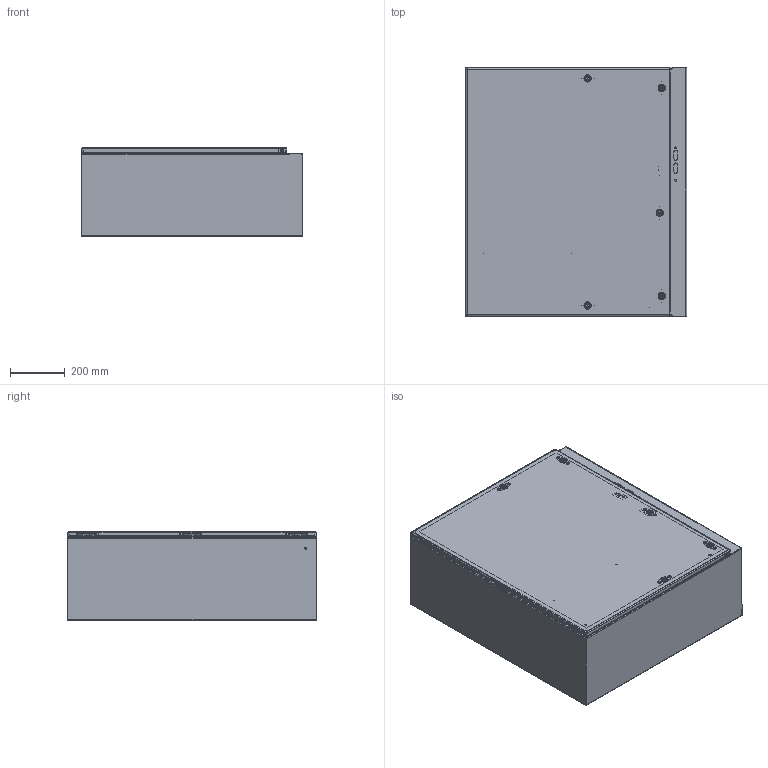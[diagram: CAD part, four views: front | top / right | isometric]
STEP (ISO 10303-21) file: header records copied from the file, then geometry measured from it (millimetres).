
FILE_DESCRIPTION (( 'STEP AP203' ), '1' );
FILE_NAME ('cdsc363212ssr.STEP', '2017-12-08T17:07:27', ( '' ), ( '' ), 'SwSTEP 2.0', 'SolidWorks 2014', '' );
FILE_SCHEMA (( 'CONFIG_CONTROL_DESIGN' ));
Length unit declared in the file: inch
Products named in the file (49): cdsc363212ssr; 89131630; 23101002; 22101012; 87932266; 89002037; 89146691; 89076399; 64138001; 99401329_99401329; 87927840_87927840; 89146777_Main; 89147308; 87928711; 87555298; 99411918; 64157001_Locked; 87540678; 99414350; 87929769_Installed on Pin; 87562939_87562939; 99411834; 64201001; 64210001; 23271002_After Weld; 87930615; 64103001; 64202002; 64202001; 89146737; 89123196; 89146808; 64203001; 64208001; 89154200; 89123200; 87543026; 64101002; 64144001; 64205001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
Assembly tree (101 placements, depth 4):
  cdsc363212ssr
    89146737
      89146717_CBORES FOR WMT
      89146701
      89146691
      89147308
      99414350
      23271002_After Weld  x6
    89146808
      89146777_Main
        89154200
        99414350
        87751114_87751114  x15
        87540455_8754055
        89002037
      64157001_Locked
        87540678
        64210001
        64202001
        64208001
        64205001  x2
        87541995
        87932266
        87927840_87927840
      64101002  x4
        64201001
        87932266
        87541995
        64202002
        64210001
        64203001
        87927840_87927840
      89144636_96194A101  x13
      23101002
      64138001  x2
      87555298
      87562939_87562939
      64144001
      64212005
      22101012  x2
      99401329_99401329  x2
      99411918  x2
      99411834
      64103001
    87543026  x3
    89076399  x3
      89076193
      89131630
    87930615  x3
      87928711
      87929769_Installed on Pin
    89123200
      89123196
    89067304_B18.6.7M - M5 x 0.8 x 16 Type I Cross Recessed FHMS --16N  x4
Bounding box: 811.53 x 915.68 x 325.5 mm (x, y, z)
Volume: 5117455.5 mm3; surface area: 5643668 mm2
Topology: 115 solids, 115 shells, 6427 faces, 16816 edges, 10656 vertices
Faces by surface type: plane 3051, cylinder 1727, bspline 981, cone 351, torus 277, sphere 40
Entity records: 109088 total; most frequent: CARTESIAN_POINT 44291, ORIENTED_EDGE 12768, DIRECTION 11124, EDGE_CURVE 6384, VERTEX_POINT 4064, AXIS2_PLACEMENT_3D 3827, LINE 3470, VECTOR 3470
